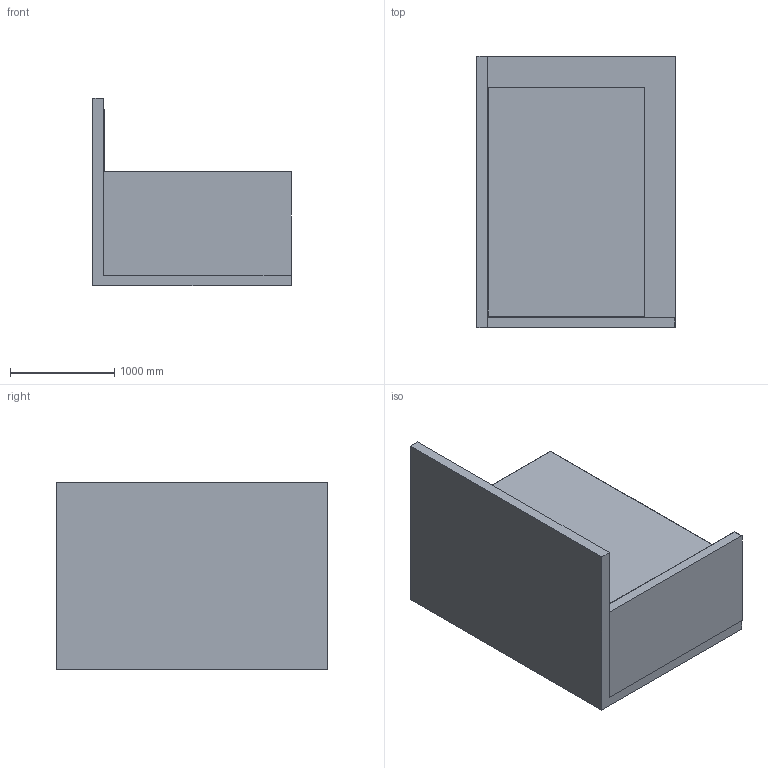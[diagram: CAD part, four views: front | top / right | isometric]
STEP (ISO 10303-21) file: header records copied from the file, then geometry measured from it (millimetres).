
FILE_DESCRIPTION(('Creo Elements/Direct Modeling STEP Export'),'2;1');
FILE_NAME('G:/cad/Duscholux/19.004_Konfigurator/Daten/Walk-In/Walk-In_1500x1200.stp','2019-03-25T14:37:35',(''),(''),'Creo Elements/Direct Modeling STEP processor for AP214 (Solid Model)','Creo Elements/Direct Modeling 19.0G 27-Nov-2017 (C) Parametric Technology GmbH','');
FILE_SCHEMA(('AUTOMOTIVE_DESIGN { 1 0 10303 214 1 1 1 1 }'));
Length unit declared in the file: millimetre
Products named in the file (14): 10010.50I_Glas_Plan_1500x2198x10; 251291_Silikon_Rundschnur_D2; 250349.01.21980000; 520368_FÜHRUNGSSCHIENE; 520368.501.0_Führungsschiene_mit_Klebeband.1; BODEN.1.1.1; FLIESE_30x60cm.1.2; FLIESE_30x60cm.1.1.2; FLIESE_30x60cm.1.1.1.2; FLIESE_30x60cm.1.1.1.1.1; WAND.1_445.1.1; Umgebung.1; 520367.02_2500_Wandprofil_Unterputz.1; Walk-In_1500x2000
Assembly tree (13 placements, depth 3):
  Walk-In_1500x2000
    520367.02_2500_Wandprofil_Unterputz.1
    Umgebung.1
      WAND.1_445.1.1
      FLIESE_30x60cm.1.1.1.1.1
      FLIESE_30x60cm.1.1.1.2
      FLIESE_30x60cm.1.1.2
      FLIESE_30x60cm.1.2
      BODEN.1.1.1
    520368.501.0_Führungsschiene_mit_Klebeband.1
      520368_FÜHRUNGSSCHIENE
    250349.01.21980000
    251291_Silikon_Rundschnur_D2
    10010.50I_Glas_Plan_1500x2198x10
Bounding box: 1900 x 2600 x 1800 mm (x, y, z)
Volume: 1156377215 mm3; surface area: 32621667 mm2
Topology: 11 solids, 11 shells, 520 faces, 1484 edges, 985 vertices
Faces by surface type: plane 487, cylinder 32, sphere 1
Entity records: 17399 total; most frequent: CARTESIAN_POINT 2997, ORIENTED_EDGE 2966, DIRECTION 2607, EDGE_CURVE 1483, VECTOR 1417, LINE 1417, VERTEX_POINT 985, EDGE_LOOP 724
